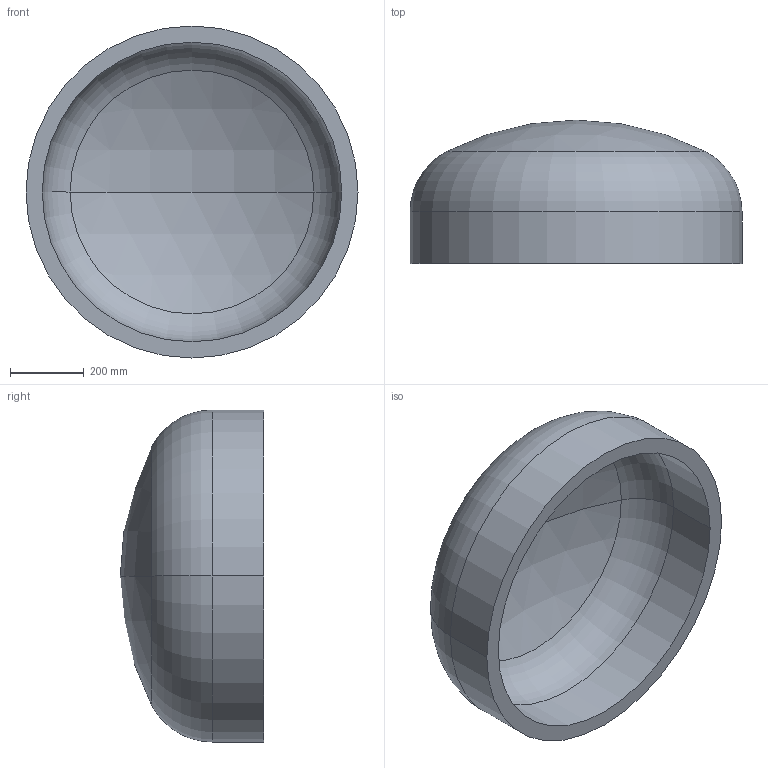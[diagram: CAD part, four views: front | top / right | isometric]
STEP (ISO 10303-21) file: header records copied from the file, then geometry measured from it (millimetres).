
FILE_DESCRIPTION (( 'STEP AP203' ), '1' );
FILE_NAME ('DIN 28013 Korbbogenform_-_Boden DIN 28013 - 900 x 140 - I - s=44.step', '2016-07-01T08:32:01', ( '' ), ( '' ), 'SwSTEP 2.0', 'SolidWorks 2013', '' );
FILE_SCHEMA (( 'CONFIG_CONTROL_DESIGN' ));
Length unit declared in the file: millimetre
Products named in the file (1): DIN 28013 Korbbogenform_-_Boden DIN 28013 - 900 x 140 - I - s=44
Bounding box: 900 x 388.59 x 900 mm (x, y, z)
Volume: 53045953.5 mm3; surface area: 2533558.9 mm2
Topology: 1 solids, 1 shells, 13 faces, 24 edges, 14 vertices
Faces by surface type: torus 4, cylinder 4, sphere 4, plane 1
Entity records: 407 total; most frequent: DIRECTION 72, CARTESIAN_POINT 52, ORIENTED_EDGE 48, AXIS2_PLACEMENT_3D 34, EDGE_CURVE 24, CIRCLE 20, VERTEX_POINT 14, EDGE_LOOP 14
